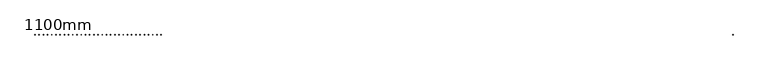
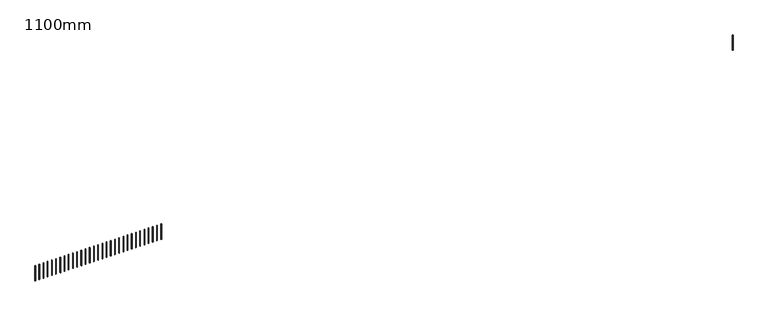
"""IFC4 building model written with IfcOpenShell, lengths in millimetres: railing geometry, 1100mm."""

from ifc_helpers import new_model, si_unit, frame, origin, place, context, project, spatial, polyline, outline, extrude, source, transform, mapped, element, save


def railing_1100mm_f5e6f717(model_context):
    return source(origin(), model_context, "Body", "SweptSolid", [
        extrude(outline(polyline([(-2073.3244727, 2504.0551306), (-2073.3244727, 2529.0551306), (-2048.3244727, 2529.0551306), (-2048.3244727, 2504.0551306), (-2073.3244727, 2504.0551306)])), frame((0.0, 0.0, 4000.0), z_axis=(0.0, 0.0, 1.0), x_axis=(1.0, 0.0, 0.0)), (0.0, 0.0, 1.0), 1050.0),
        extrude(outline(polyline([(-2348.3244727, 2504.0551306), (-2348.3244727, 2529.0551306), (-2323.3244727, 2529.0551306), (-2323.3244727, 2504.0551306), (-2348.3244727, 2504.0551306)])), frame((0.0, 0.0, 4000.0), z_axis=(0.0, 0.0, 1.0), x_axis=(1.0, 0.0, 0.0)), (0.0, 0.0, 1.0), 1050.0),
        extrude(outline(polyline([(-2623.3244727, 2504.0551306), (-2623.3244727, 2529.0551306), (-2598.3244727, 2529.0551306), (-2598.3244727, 2504.0551306), (-2623.3244727, 2504.0551306)])), frame((0.0, 0.0, 4000.0), z_axis=(0.0, 0.0, 1.0), x_axis=(1.0, 0.0, 0.0)), (0.0, 0.0, 1.0), 1050.0),
        extrude(outline(polyline([(-2898.3244727, 2504.0551306), (-2898.3244727, 2529.0551306), (-2873.3244727, 2529.0551306), (-2873.3244727, 2504.0551306), (-2898.3244727, 2504.0551306)])), frame((0.0, 0.0, 4000.0), z_axis=(0.0, 0.0, 1.0), x_axis=(1.0, 0.0, 0.0)), (0.0, 0.0, 1.0), 1050.0),
        extrude(outline(polyline([(-3173.3244727, 2504.0551306), (-3173.3244727, 2529.0551306), (-3148.3244727, 2529.0551306), (-3148.3244727, 2504.0551306), (-3173.3244727, 2504.0551306)])), frame((0.0, 0.0, 4000.0), z_axis=(0.0, 0.0, 1.0), x_axis=(1.0, 0.0, 0.0)), (0.0, 0.0, 1.0), 1050.0),
        extrude(outline(polyline([(-3448.3244727, 2504.0551306), (-3448.3244727, 2529.0551306), (-3423.3244727, 2529.0551306), (-3423.3244727, 2504.0551306), (-3448.3244727, 2504.0551306)])), frame((0.0, 0.0, 4000.0), z_axis=(0.0, 0.0, 1.0), x_axis=(1.0, 0.0, 0.0)), (0.0, 0.0, 1.0), 1050.0),
        extrude(outline(polyline([(-3723.3244727, 2504.0551306), (-3723.3244727, 2529.0551306), (-3698.3244727, 2529.0551306), (-3698.3244727, 2504.0551306), (-3723.3244727, 2504.0551306)])), frame((0.0, 0.0, 4000.0), z_axis=(0.0, 0.0, 1.0), x_axis=(1.0, 0.0, 0.0)), (0.0, 0.0, 1.0), 1050.0),
        extrude(outline(polyline([(-3998.3244727, 2504.0551306), (-3998.3244727, 2529.0551306), (-3973.3244727, 2529.0551306), (-3973.3244727, 2504.0551306), (-3998.3244727, 2504.0551306)])), frame((0.0, 0.0, 4000.0), z_axis=(0.0, 0.0, 1.0), x_axis=(1.0, 0.0, 0.0)), (0.0, 0.0, 1.0), 1050.0),
        extrude(outline(polyline([(-4273.3244727, 2504.0551306), (-4273.3244727, 2529.0551306), (-4248.3244727, 2529.0551306), (-4248.3244727, 2504.0551306), (-4273.3244727, 2504.0551306)])), frame((0.0, 0.0, 4000.0), z_axis=(0.0, 0.0, 1.0), x_axis=(1.0, 0.0, 0.0)), (0.0, 0.0, 1.0), 1050.0),
        extrude(outline(polyline([(-4548.3244727, 2504.0551306), (-4548.3244727, 2529.0551306), (-4523.3244727, 2529.0551306), (-4523.3244727, 2504.0551306), (-4548.3244727, 2504.0551306)])), frame((0.0, 0.0, 4000.0), z_axis=(0.0, 0.0, 1.0), x_axis=(1.0, 0.0, 0.0)), (0.0, 0.0, 1.0), 1050.0),
        extrude(outline(polyline([(-4823.3244727, 2504.0551306), (-4823.3244727, 2529.0551306), (-4798.3244727, 2529.0551306), (-4798.3244727, 2504.0551306), (-4823.3244727, 2504.0551306)])), frame((0.0, 0.0, 4000.0), z_axis=(0.0, 0.0, 1.0), x_axis=(1.0, 0.0, 0.0)), (0.0, 0.0, 1.0), 1050.0),
        extrude(outline(polyline([(-5098.3244727, 2504.0551306), (-5098.3244727, 2529.0551306), (-5073.3244727, 2529.0551306), (-5073.3244727, 2504.0551306), (-5098.3244727, 2504.0551306)])), frame((0.0, 0.0, 4000.0), z_axis=(0.0, 0.0, 1.0), x_axis=(1.0, 0.0, 0.0)), (0.0, 0.0, 1.0), 1050.0),
        extrude(outline(polyline([(-5373.3244727, 2504.0551306), (-5373.3244727, 2529.0551306), (-5348.3244727, 2529.0551306), (-5348.3244727, 2504.0551306), (-5373.3244727, 2504.0551306)])), frame((0.0, 0.0, 4000.0), z_axis=(0.0, 0.0, 1.0), x_axis=(1.0, 0.0, 0.0)), (0.0, 0.0, 1.0), 1050.0),
        extrude(outline(polyline([(-5648.3244727, 2504.0551306), (-5648.3244727, 2529.0551306), (-5623.3244727, 2529.0551306), (-5623.3244727, 2504.0551306), (-5648.3244727, 2504.0551306)])), frame((0.0, 0.0, 4000.0), z_axis=(0.0, 0.0, 1.0), x_axis=(1.0, 0.0, 0.0)), (0.0, 0.0, 1.0), 1050.0),
        extrude(outline(polyline([(-5923.3244727, 2504.0551306), (-5923.3244727, 2529.0551306), (-5898.3244727, 2529.0551306), (-5898.3244727, 2504.0551306), (-5923.3244727, 2504.0551306)])), frame((0.0, 0.0, 4000.0), z_axis=(0.0, 0.0, 1.0), x_axis=(1.0, 0.0, 0.0)), (0.0, 0.0, 1.0), 1050.0),
        extrude(outline(polyline([(-6198.3244727, 2504.0551306), (-6198.3244727, 2529.0551306), (-6173.3244727, 2529.0551306), (-6173.3244727, 2504.0551306), (-6198.3244727, 2504.0551306)])), frame((0.0, 0.0, 4000.0), z_axis=(0.0, 0.0, 1.0), x_axis=(1.0, 0.0, 0.0)), (0.0, 0.0, 1.0), 1050.0),
        extrude(outline(polyline([(-6473.3244727, 2504.0551306), (-6473.3244727, 2529.0551306), (-6448.3244727, 2529.0551306), (-6448.3244727, 2504.0551306), (-6473.3244727, 2504.0551306)])), frame((0.0, 0.0, 4000.0), z_axis=(0.0, 0.0, 1.0), x_axis=(1.0, 0.0, 0.0)), (0.0, 0.0, 1.0), 1050.0),
        extrude(outline(polyline([(-6748.3244727, 2504.0551306), (-6748.3244727, 2529.0551306), (-6723.3244727, 2529.0551306), (-6723.3244727, 2504.0551306), (-6748.3244727, 2504.0551306)])), frame((0.0, 0.0, 4000.0), z_axis=(0.0, 0.0, 1.0), x_axis=(1.0, 0.0, 0.0)), (0.0, 0.0, 1.0), 1050.0),
        extrude(outline(polyline([(-7023.3244727, 2504.0551306), (-7023.3244727, 2529.0551306), (-6998.3244727, 2529.0551306), (-6998.3244727, 2504.0551306), (-7023.3244727, 2504.0551306)])), frame((0.0, 0.0, 4000.0), z_axis=(0.0, 0.0, 1.0), x_axis=(1.0, 0.0, 0.0)), (0.0, 0.0, 1.0), 1050.0),
        extrude(outline(polyline([(-7298.3244727, 2504.0551306), (-7298.3244727, 2529.0551306), (-7273.3244727, 2529.0551306), (-7273.3244727, 2504.0551306), (-7298.3244727, 2504.0551306)])), frame((0.0, 0.0, 4000.0), z_axis=(0.0, 0.0, 1.0), x_axis=(1.0, 0.0, 0.0)), (0.0, 0.0, 1.0), 1050.0),
        extrude(outline(polyline([(-7573.3244727, 2504.0551306), (-7573.3244727, 2529.0551306), (-7548.3244727, 2529.0551306), (-7548.3244727, 2504.0551306), (-7573.3244727, 2504.0551306)])), frame((0.0, 0.0, 4000.0), z_axis=(0.0, 0.0, 1.0), x_axis=(1.0, 0.0, 0.0)), (0.0, 0.0, 1.0), 1050.0),
        extrude(outline(polyline([(-7848.3244727, 2504.0551306), (-7848.3244727, 2529.0551306), (-7823.3244727, 2529.0551306), (-7823.3244727, 2504.0551306), (-7848.3244727, 2504.0551306)])), frame((0.0, 0.0, 4000.0), z_axis=(0.0, 0.0, 1.0), x_axis=(1.0, 0.0, 0.0)), (0.0, 0.0, 1.0), 1050.0),
        extrude(outline(polyline([(-8123.3244727, 2504.0551306), (-8123.3244727, 2529.0551306), (-8098.3244727, 2529.0551306), (-8098.3244727, 2504.0551306), (-8123.3244727, 2504.0551306)])), frame((0.0, 0.0, 4000.0), z_axis=(0.0, 0.0, 1.0), x_axis=(1.0, 0.0, 0.0)), (0.0, 0.0, 1.0), 1050.0),
        extrude(outline(polyline([(-8398.3244727, 2504.0551306), (-8398.3244727, 2529.0551306), (-8373.3244727, 2529.0551306), (-8373.3244727, 2504.0551306), (-8398.3244727, 2504.0551306)])), frame((0.0, 0.0, 4000.0), z_axis=(0.0, 0.0, 1.0), x_axis=(1.0, 0.0, 0.0)), (0.0, 0.0, 1.0), 1050.0),
        extrude(outline(polyline([(-8673.3244727, 2504.0551306), (-8673.3244727, 2529.0551306), (-8648.3244727, 2529.0551306), (-8648.3244727, 2504.0551306), (-8673.3244727, 2504.0551306)])), frame((0.0, 0.0, 4000.0), z_axis=(0.0, 0.0, 1.0), x_axis=(1.0, 0.0, 0.0)), (0.0, 0.0, 1.0), 1050.0),
        extrude(outline(polyline([(-8948.3244727, 2504.0551306), (-8948.3244727, 2529.0551306), (-8923.3244727, 2529.0551306), (-8923.3244727, 2504.0551306), (-8948.3244727, 2504.0551306)])), frame((0.0, 0.0, 4000.0), z_axis=(0.0, 0.0, 1.0), x_axis=(1.0, 0.0, 0.0)), (0.0, 0.0, 1.0), 1050.0),
        extrude(outline(polyline([(-9223.3244727, 2504.0551306), (-9223.3244727, 2529.0551306), (-9198.3244727, 2529.0551306), (-9198.3244727, 2504.0551306), (-9223.3244727, 2504.0551306)])), frame((0.0, 0.0, 4000.0), z_axis=(0.0, 0.0, 1.0), x_axis=(1.0, 0.0, 0.0)), (0.0, 0.0, 1.0), 1050.0),
        extrude(outline(polyline([(-9498.3244727, 2504.0551306), (-9498.3244727, 2529.0551306), (-9473.3244727, 2529.0551306), (-9473.3244727, 2504.0551306), (-9498.3244727, 2504.0551306)])), frame((0.0, 0.0, 4000.0), z_axis=(0.0, 0.0, 1.0), x_axis=(1.0, 0.0, 0.0)), (0.0, 0.0, 1.0), 1050.0),
        extrude(outline(polyline([(-9773.3244727, 2504.0551306), (-9773.3244727, 2529.0551306), (-9748.3244727, 2529.0551306), (-9748.3244727, 2504.0551306), (-9773.3244727, 2504.0551306)])), frame((0.0, 0.0, 4000.0), z_axis=(0.0, 0.0, 1.0), x_axis=(1.0, 0.0, 0.0)), (0.0, 0.0, 1.0), 1050.0),
        extrude(outline(polyline([(-10048.3244727, 2504.0551306), (-10048.3244727, 2529.0551306), (-10023.3244727, 2529.0551306), (-10023.3244727, 2504.0551306), (-10048.3244727, 2504.0551306)])), frame((0.0, 0.0, 4000.0), z_axis=(0.0, 0.0, 1.0), x_axis=(1.0, 0.0, 0.0)), (0.0, 0.0, 1.0), 1050.0),
        extrude(outline(polyline([(35294.9255273, 2504.0551306), (35294.9255273, 2529.0551306), (35319.9255273, 2529.0551306), (35319.9255273, 2504.0551306), (35294.9255273, 2504.0551306)])), frame((0.0, 0.0, 4000.0), z_axis=(0.0, 0.0, 1.0), x_axis=(1.0, 0.0, 0.0)), (0.0, 0.0, 1.0), 1050.0),
        extrude(outline(polyline([(-10310.8244727, 2504.0551306), (-10310.8244727, 2529.0551306), (-10285.8244727, 2529.0551306), (-10285.8244727, 2504.0551306), (-10310.8244727, 2504.0551306)])), frame((0.0, 0.0, 4000.0), z_axis=(0.0, 0.0, 1.0), x_axis=(1.0, 0.0, 0.0)), (0.0, 0.0, 1.0), 1050.0),
    ])


if __name__ == "__main__":
    model = new_model("IFC4")
    model_context = context("Model", 3, world=origin())
    ifc_project = project(units=[si_unit("LENGTHUNIT", "METRE", prefix="MILLI")], contexts=[model_context])
    site = spatial("IfcSite", under=ifc_project)
    building = spatial("IfcBuilding", under=site)
    placement = place(None, origin())
    railing_1100mm_shape = railing_1100mm_f5e6f717(model_context)
    element("IfcRailing", 1, ObjectType="1100mm", at=placement, inside=building, context=model_context, shape_type="MappedRepresentation", body=[
        mapped(railing_1100mm_shape, transform((0.0, 0.0, 0.0), x_axis=(1.0, 0.0, 0.0), y_axis=(0.0, 1.0, 0.0), z_axis=(0.0, 0.0, 1.0))),
    ])
    save(model, "model.ifc")
